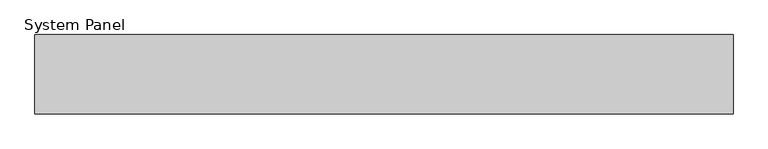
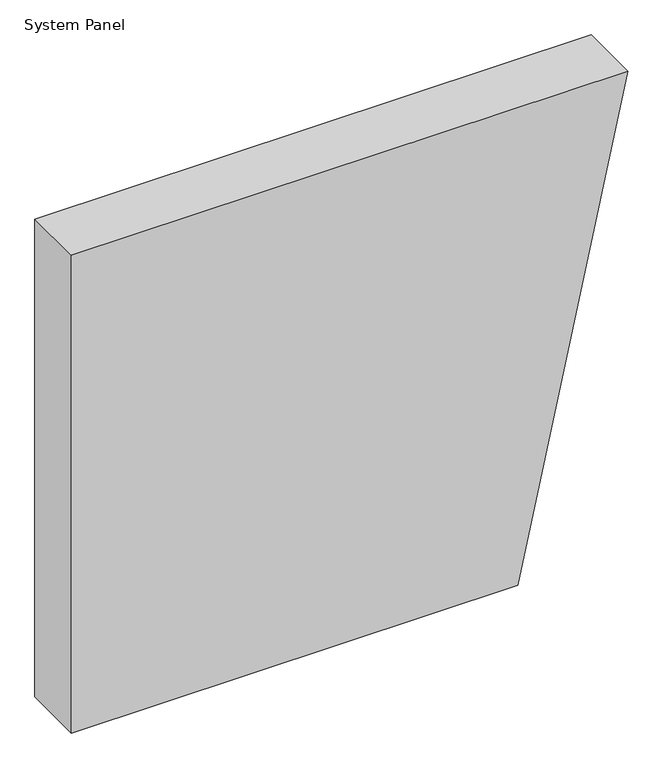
"""IFC4 building model written with IfcOpenShell, lengths in millimetres: plate geometry, System Panel : Equitilt 150mm Horizontal - Plain RHEA - MW."""

from ifc_helpers import new_model, si_unit, frame, origin, place, context, project, spatial, polyline, outline, extrude, source, transform, mapped, element, save


def system_panel_17cfb40a(model_context):
    return source(origin(), model_context, "Body", "SweptSolid", [
        extrude(outline(polyline([(0.0, -660.8716619), (0.0, 400.0), (1200.0, 660.8716619), (1200.0, -660.8716619), (0.0, -660.8716619)])), frame((0.0, -150.0, 0.0), z_axis=(0.0, 1.0, 0.0), x_axis=(0.0, 0.0, 1.0)), (0.0, 0.0, 1.0), 150.0),
    ])


if __name__ == "__main__":
    model = new_model("IFC4")
    model_context = context("Model", 3, world=origin())
    ifc_project = project(units=[si_unit("LENGTHUNIT", "METRE", prefix="MILLI")], contexts=[model_context])
    site = spatial("IfcSite", under=ifc_project)
    building = spatial("IfcBuilding", under=site)
    placement = place(None, origin())
    system_panel_shape = system_panel_17cfb40a(model_context)
    element("IfcPlate", 1, ObjectType="System Panel : Equitilt 150mm Horizontal - Plain RHEA - MW", at=placement, inside=building, context=model_context, shape_type="MappedRepresentation", body=[
        mapped(system_panel_shape, transform((0.0, 0.0, 0.0), x_axis=(1.0, 0.0, 0.0), y_axis=(0.0, 1.0, 0.0), z_axis=(0.0, 0.0, 1.0))),
    ])
    save(model, "model.ifc")
